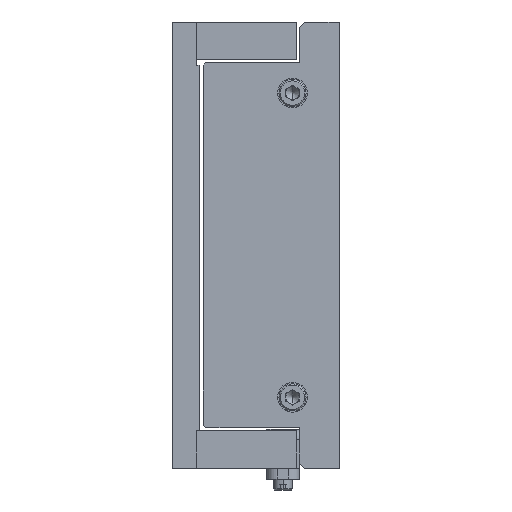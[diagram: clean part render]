
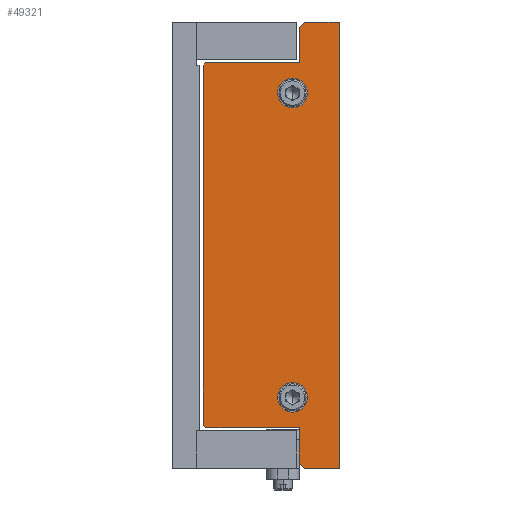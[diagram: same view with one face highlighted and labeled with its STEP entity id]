
A CAD part, left-side view. The second image highlights one B-rep face of the part: STEP entity #49321.
In plain terms, the highlighted planar face has unit normal (-1, 0, 0).
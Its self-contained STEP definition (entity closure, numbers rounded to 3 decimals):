
#28 = EDGE_CURVE ( 'NONE', #40740, #12217, #48602, .T. ) ;
#709 = CARTESIAN_POINT ( 'NONE',  ( -265., 49.5, -67.5 ) ) ;
#991 = LINE ( 'NONE', #8687, #54501 ) ;
#1440 = DIRECTION ( 'NONE',  ( 0., 0., -1. ) ) ;
#1454 = ORIENTED_EDGE ( 'NONE', *, *, #50882, .T. ) ;
#2393 = DIRECTION ( 'NONE',  ( -1., 0., 0. ) ) ;
#2506 = CARTESIAN_POINT ( 'NONE',  ( -265., 49.5, 67.5 ) ) ;
#2772 = CARTESIAN_POINT ( 'NONE',  ( -265., 17.5, -56.25 ) ) ;
#3710 = CARTESIAN_POINT ( 'NONE',  ( -265., 17.5, -61.75 ) ) ;
#6982 = FACE_BOUND ( 'NONE', #35501, .T. ) ;
#7072 = CARTESIAN_POINT ( 'NONE',  ( -265., 50.5, 66.5 ) ) ;
#7394 = DIRECTION ( 'NONE',  ( 0., 0., 1. ) ) ;
#7411 = ORIENTED_EDGE ( 'NONE', *, *, #27547, .T. ) ;
#7922 = LINE ( 'NONE', #47080, #49225 ) ;
#8687 = CARTESIAN_POINT ( 'NONE',  ( -265., 13.05, 82.5 ) ) ;
#8813 = DIRECTION ( 'NONE',  ( 0., 0., -1. ) ) ;
#8833 = VECTOR ( 'NONE', #54953, 1000. ) ;
#9712 = VECTOR ( 'NONE', #14619, 1000. ) ;
#10004 = EDGE_CURVE ( 'NONE', #41856, #40029, #19043, .T. ) ;
#10713 = DIRECTION ( 'NONE',  ( 1., 0., 0. ) ) ;
#10739 = VERTEX_POINT ( 'NONE', #7072 ) ;
#11052 = FACE_BOUND ( 'NONE', #34873, .T. ) ;
#11089 = VERTEX_POINT ( 'NONE', #44118 ) ;
#11304 = DIRECTION ( 'NONE',  ( -1., 0., 0. ) ) ;
#11424 = AXIS2_PLACEMENT_3D ( 'NONE', #37655, #2393, #20002 ) ;
#12127 = CARTESIAN_POINT ( 'NONE',  ( -265., 49.5, -67.5 ) ) ;
#12217 = VERTEX_POINT ( 'NONE', #19929 ) ;
#12728 = CARTESIAN_POINT ( 'NONE',  ( -265., 0.25, -82.5 ) ) ;
#12810 = DIRECTION ( 'NONE',  ( 0., 1., 0. ) ) ;
#13075 = LINE ( 'NONE', #53121, #9712 ) ;
#13144 = LINE ( 'NONE', #33621, #13818 ) ;
#13818 = VECTOR ( 'NONE', #46269, 1000. ) ;
#13958 = AXIS2_PLACEMENT_3D ( 'NONE', #14870, #10713, #1440 ) ;
#13964 = CARTESIAN_POINT ( 'NONE',  ( -265., 17.5, 50.75 ) ) ;
#14201 = CARTESIAN_POINT ( 'NONE',  ( -265., 17.5, 56.25 ) ) ;
#14265 = EDGE_LOOP ( 'NONE', ( #16353, #26339, #26725, #50499, #51082, #1454, #25668, #7411, #16961, #16816, #18087, #41752 ) ) ;
#14356 = EDGE_CURVE ( 'NONE', #54913, #11089, #31866, .T. ) ;
#14619 = DIRECTION ( 'NONE',  ( 0., 0., 1. ) ) ;
#14870 = CARTESIAN_POINT ( 'NONE',  ( -265., 0., 0. ) ) ;
#15517 = DIRECTION ( 'NONE',  ( -1., 0., 0. ) ) ;
#15616 = EDGE_CURVE ( 'NONE', #12217, #40740, #42446, .T. ) ;
#16256 = CARTESIAN_POINT ( 'NONE',  ( -265., 49.5, 67.5 ) ) ;
#16304 = CARTESIAN_POINT ( 'NONE',  ( -265., 17.5, -56.25 ) ) ;
#16353 = ORIENTED_EDGE ( 'NONE', *, *, #41110, .T. ) ;
#16375 = EDGE_CURVE ( 'NONE', #29929, #25857, #991, .T. ) ;
#16816 = ORIENTED_EDGE ( 'NONE', *, *, #33737, .T. ) ;
#16961 = ORIENTED_EDGE ( 'NONE', *, *, #51529, .T. ) ;
#17018 = LINE ( 'NONE', #55326, #25799 ) ;
#17951 = DIRECTION ( 'NONE',  ( 0., -1., 0. ) ) ;
#18087 = ORIENTED_EDGE ( 'NONE', *, *, #21146, .T. ) ;
#18913 = VERTEX_POINT ( 'NONE', #12127 ) ;
#19043 = CIRCLE ( 'NONE', #11424, 5.5 ) ;
#19421 = VERTEX_POINT ( 'NONE', #43792 ) ;
#19622 = DIRECTION ( 'NONE',  ( 0., 0., 1. ) ) ;
#19929 = CARTESIAN_POINT ( 'NONE',  ( -265., 17.5, -50.75 ) ) ;
#20002 = DIRECTION ( 'NONE',  ( 0., 0., 1. ) ) ;
#20267 = DIRECTION ( 'NONE',  ( 0., 0.707, -0.707 ) ) ;
#20349 = ORIENTED_EDGE ( 'NONE', *, *, #15616, .F. ) ;
#21146 = EDGE_CURVE ( 'NONE', #33259, #28919, #7922, .T. ) ;
#21625 = EDGE_CURVE ( 'NONE', #10739, #39416, #30124, .T. ) ;
#22496 = LINE ( 'NONE', #48638, #29371 ) ;
#24442 = CARTESIAN_POINT ( 'NONE',  ( -265., 50.5, -66.5 ) ) ;
#24580 = CARTESIAN_POINT ( 'NONE',  ( -265., 17.5, 61.75 ) ) ;
#24982 = DIRECTION ( 'NONE',  ( -1., 0., 0. ) ) ;
#25313 = CARTESIAN_POINT ( 'NONE',  ( -265., 13.05, -82.5 ) ) ;
#25668 = ORIENTED_EDGE ( 'NONE', *, *, #21625, .T. ) ;
#25799 = VECTOR ( 'NONE', #20267, 1000. ) ;
#25857 = VERTEX_POINT ( 'NONE', #51036 ) ;
#26139 = CARTESIAN_POINT ( 'NONE',  ( -265., 15., -67.5 ) ) ;
#26339 = ORIENTED_EDGE ( 'NONE', *, *, #16375, .T. ) ;
#26725 = ORIENTED_EDGE ( 'NONE', *, *, #54156, .T. ) ;
#27410 = VECTOR ( 'NONE', #8813, 1000. ) ;
#27547 = EDGE_CURVE ( 'NONE', #39416, #18913, #44033, .T. ) ;
#28919 = VERTEX_POINT ( 'NONE', #25313 ) ;
#29371 = VECTOR ( 'NONE', #35815, 1000. ) ;
#29929 = VERTEX_POINT ( 'NONE', #51478 ) ;
#30124 = LINE ( 'NONE', #34742, #27410 ) ;
#31793 = PLANE ( 'NONE',  #13958 ) ;
#31866 = LINE ( 'NONE', #50776, #8833 ) ;
#33174 = EDGE_CURVE ( 'NONE', #11089, #42981, #44415, .T. ) ;
#33258 = VECTOR ( 'NONE', #43203, 1000. ) ;
#33259 = VERTEX_POINT ( 'NONE', #56034 ) ;
#33621 = CARTESIAN_POINT ( 'NONE',  ( -265., 15., -80.55 ) ) ;
#33737 = EDGE_CURVE ( 'NONE', #39682, #33259, #13144, .T. ) ;
#34742 = CARTESIAN_POINT ( 'NONE',  ( -265., 50.5, -66.5 ) ) ;
#34873 = EDGE_LOOP ( 'NONE', ( #49809, #40350 ) ) ;
#35399 = EDGE_CURVE ( 'NONE', #28919, #19421, #37979, .T. ) ;
#35501 = EDGE_LOOP ( 'NONE', ( #20349, #52412 ) ) ;
#35815 = DIRECTION ( 'NONE',  ( 0., 0.707, -0.707 ) ) ;
#37655 = CARTESIAN_POINT ( 'NONE',  ( -265., 17.5, 56.25 ) ) ;
#37939 = EDGE_CURVE ( 'NONE', #40029, #41856, #55933, .T. ) ;
#37976 = VECTOR ( 'NONE', #17951, 1000. ) ;
#37979 = LINE ( 'NONE', #12728, #33258 ) ;
#39416 = VERTEX_POINT ( 'NONE', #24442 ) ;
#39682 = VERTEX_POINT ( 'NONE', #26139 ) ;
#39934 = DIRECTION ( 'NONE',  ( 0., -0.707, -0.707 ) ) ;
#40029 = VERTEX_POINT ( 'NONE', #24580 ) ;
#40350 = ORIENTED_EDGE ( 'NONE', *, *, #10004, .F. ) ;
#40740 = VERTEX_POINT ( 'NONE', #3710 ) ;
#41070 = VECTOR ( 'NONE', #42015, 1000. ) ;
#41110 = EDGE_CURVE ( 'NONE', #19421, #29929, #13075, .T. ) ;
#41330 = VECTOR ( 'NONE', #39934, 1000. ) ;
#41752 = ORIENTED_EDGE ( 'NONE', *, *, #35399, .T. ) ;
#41856 = VERTEX_POINT ( 'NONE', #13964 ) ;
#42015 = DIRECTION ( 'NONE',  ( 0., 1., 0. ) ) ;
#42446 = CIRCLE ( 'NONE', #43374, 5.5 ) ;
#42934 = DIRECTION ( 'NONE',  ( 0., -0.707, -0.707 ) ) ;
#42981 = VERTEX_POINT ( 'NONE', #2506 ) ;
#43203 = DIRECTION ( 'NONE',  ( 0., -1., 0. ) ) ;
#43374 = AXIS2_PLACEMENT_3D ( 'NONE', #16304, #24982, #7394 ) ;
#43792 = CARTESIAN_POINT ( 'NONE',  ( -265., 0.25, -82.5 ) ) ;
#43877 = AXIS2_PLACEMENT_3D ( 'NONE', #2772, #11304, #19622 ) ;
#44033 = LINE ( 'NONE', #709, #41330 ) ;
#44118 = CARTESIAN_POINT ( 'NONE',  ( -265., 15., 67.5 ) ) ;
#44258 = CARTESIAN_POINT ( 'NONE',  ( -265., 15., -67.5 ) ) ;
#44415 = LINE ( 'NONE', #16256, #41070 ) ;
#46269 = DIRECTION ( 'NONE',  ( 0., 0., -1. ) ) ;
#46427 = AXIS2_PLACEMENT_3D ( 'NONE', #14201, #15517, #54335 ) ;
#47080 = CARTESIAN_POINT ( 'NONE',  ( -265., 13.05, -82.5 ) ) ;
#48319 = FACE_OUTER_BOUND ( 'NONE', #14265, .T. ) ;
#48602 = CIRCLE ( 'NONE', #43877, 5.5 ) ;
#48638 = CARTESIAN_POINT ( 'NONE',  ( -265., 15., 80.55 ) ) ;
#48789 = LINE ( 'NONE', #44258, #37976 ) ;
#49225 = VECTOR ( 'NONE', #42934, 1000. ) ;
#49321 = ADVANCED_FACE ( 'NONE', ( #6982, #11052, #48319 ), #31793, .F. ) ;
#49809 = ORIENTED_EDGE ( 'NONE', *, *, #37939, .F. ) ;
#50499 = ORIENTED_EDGE ( 'NONE', *, *, #14356, .T. ) ;
#50776 = CARTESIAN_POINT ( 'NONE',  ( -265., 15., 67.5 ) ) ;
#50882 = EDGE_CURVE ( 'NONE', #42981, #10739, #17018, .T. ) ;
#50893 = CARTESIAN_POINT ( 'NONE',  ( -265., 15., 80.55 ) ) ;
#51036 = CARTESIAN_POINT ( 'NONE',  ( -265., 13.05, 82.5 ) ) ;
#51082 = ORIENTED_EDGE ( 'NONE', *, *, #33174, .T. ) ;
#51478 = CARTESIAN_POINT ( 'NONE',  ( -265., 0.25, 82.5 ) ) ;
#51529 = EDGE_CURVE ( 'NONE', #18913, #39682, #48789, .T. ) ;
#52412 = ORIENTED_EDGE ( 'NONE', *, *, #28, .F. ) ;
#53121 = CARTESIAN_POINT ( 'NONE',  ( -265., 0.25, 82.5 ) ) ;
#54156 = EDGE_CURVE ( 'NONE', #25857, #54913, #22496, .T. ) ;
#54335 = DIRECTION ( 'NONE',  ( 0., 0., 1. ) ) ;
#54501 = VECTOR ( 'NONE', #12810, 1000. ) ;
#54913 = VERTEX_POINT ( 'NONE', #50893 ) ;
#54953 = DIRECTION ( 'NONE',  ( 0., 0., -1. ) ) ;
#55326 = CARTESIAN_POINT ( 'NONE',  ( -265., 50.5, 66.5 ) ) ;
#55933 = CIRCLE ( 'NONE', #46427, 5.5 ) ;
#56034 = CARTESIAN_POINT ( 'NONE',  ( -265., 15., -80.55 ) ) ;
